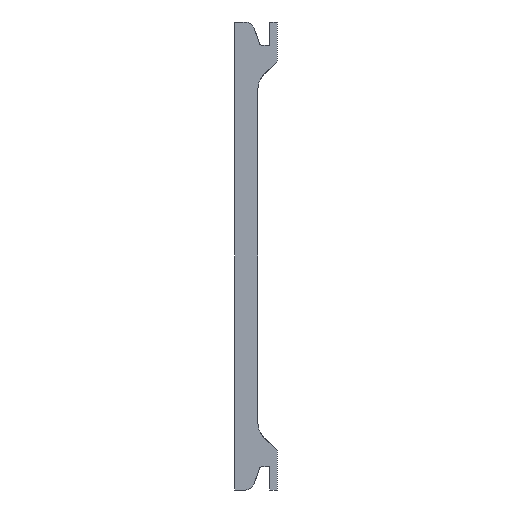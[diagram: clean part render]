
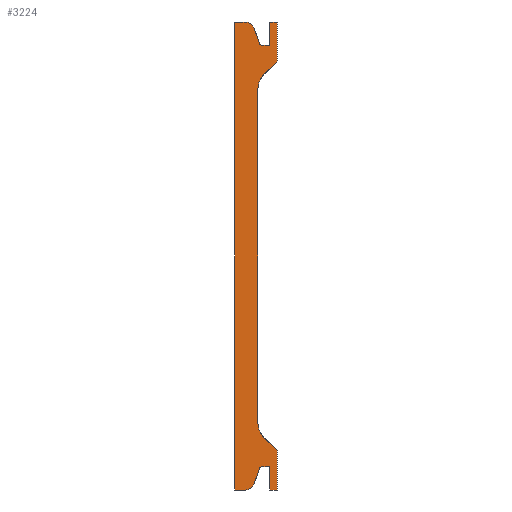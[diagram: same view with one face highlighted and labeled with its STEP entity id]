
A CAD part, left-side view. The second image highlights one B-rep face of the part: STEP entity #3224.
In plain terms, the highlighted planar face has unit normal (-1, 0, 0).
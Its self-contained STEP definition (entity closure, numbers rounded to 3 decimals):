
#133=PLANE('',#3458);
#290=FACE_OUTER_BOUND('',#460,.T.);
#460=EDGE_LOOP('',(#2743,#2744,#2745,#2746,#2747,#2748,#2749,#2750,#2751,
#2752,#2753,#2754,#2755,#2756,#2757,#2758,#2759,#2760,#2761,#2762,#2763,
#2764));
#524=LINE('',#4453,#910);
#636=LINE('',#4729,#1022);
#640=LINE('',#4741,#1026);
#663=LINE('',#4877,#1049);
#666=LINE('',#4886,#1052);
#674=LINE('',#4898,#1060);
#679=LINE('',#4906,#1065);
#684=LINE('',#4926,#1070);
#687=LINE('',#4958,#1073);
#833=LINE('',#5316,#1219);
#836=LINE('',#5322,#1222);
#838=LINE('',#5331,#1224);
#839=LINE('',#5335,#1225);
#840=LINE('',#5337,#1226);
#841=LINE('',#5339,#1227);
#842=LINE('',#5340,#1228);
#910=VECTOR('',#3562,10.);
#1022=VECTOR('',#3748,10.);
#1026=VECTOR('',#3760,10.);
#1049=VECTOR('',#3845,10.);
#1052=VECTOR('',#3852,10.);
#1060=VECTOR('',#3866,10.);
#1065=VECTOR('',#3877,10.);
#1070=VECTOR('',#3890,10.);
#1073=VECTOR('',#3899,10.);
#1219=VECTOR('',#4173,10.);
#1222=VECTOR('',#4178,10.);
#1224=VECTOR('',#4188,10.);
#1225=VECTOR('',#4191,10.);
#1226=VECTOR('',#4192,10.);
#1227=VECTOR('',#4193,10.);
#1228=VECTOR('',#4194,10.);
#1310=CIRCLE('',#3293,5.);
#1313=CIRCLE('',#3341,2.5);
#1322=CIRCLE('',#3360,1.);
#1332=CIRCLE('',#3385,5.);
#1341=CIRCLE('',#3456,2.5);
#1343=CIRCLE('',#3459,1.);
#1356=VERTEX_POINT('',#4393);
#1357=VERTEX_POINT('',#4395);
#1374=VERTEX_POINT('',#4451);
#1458=VERTEX_POINT('',#4726);
#1459=VERTEX_POINT('',#4728);
#1461=VERTEX_POINT('',#4734);
#1463=VERTEX_POINT('',#4740);
#1480=VERTEX_POINT('',#4789);
#1497=VERTEX_POINT('',#4876);
#1499=VERTEX_POINT('',#4882);
#1501=VERTEX_POINT('',#4885);
#1505=VERTEX_POINT('',#4912);
#1506=VERTEX_POINT('',#4914);
#1513=VERTEX_POINT('',#4957);
#1619=VERTEX_POINT('',#5314);
#1621=VERTEX_POINT('',#5320);
#1622=VERTEX_POINT('',#5324);
#1624=VERTEX_POINT('',#5330);
#1625=VERTEX_POINT('',#5332);
#1626=VERTEX_POINT('',#5334);
#1627=VERTEX_POINT('',#5336);
#1628=VERTEX_POINT('',#5338);
#1656=EDGE_CURVE('',#1357,#1356,#1310,.T.);
#1676=EDGE_CURVE('',#1374,#1356,#524,.T.);
#1792=EDGE_CURVE('',#1458,#1459,#636,.T.);
#1795=EDGE_CURVE('',#1461,#1459,#1313,.T.);
#1798=EDGE_CURVE('',#1461,#1463,#640,.T.);
#1821=EDGE_CURVE('',#1480,#1463,#1322,.T.);
#1846=EDGE_CURVE('',#1480,#1497,#663,.T.);
#1850=EDGE_CURVE('',#1499,#1501,#666,.T.);
#1858=EDGE_CURVE('',#1501,#1374,#674,.T.);
#1863=EDGE_CURVE('',#1497,#1499,#679,.T.);
#1867=EDGE_CURVE('',#1505,#1506,#1332,.T.);
#1871=EDGE_CURVE('',#1357,#1505,#684,.T.);
#1877=EDGE_CURVE('',#1513,#1506,#687,.T.);
#2039=EDGE_CURVE('',#1619,#1458,#833,.T.);
#2042=EDGE_CURVE('',#1619,#1621,#836,.T.);
#2043=EDGE_CURVE('',#1622,#1621,#1341,.T.);
#2046=EDGE_CURVE('',#1622,#1624,#838,.T.);
#2047=EDGE_CURVE('',#1625,#1624,#1343,.T.);
#2048=EDGE_CURVE('',#1625,#1626,#839,.T.);
#2049=EDGE_CURVE('',#1626,#1627,#840,.T.);
#2050=EDGE_CURVE('',#1627,#1628,#841,.T.);
#2051=EDGE_CURVE('',#1628,#1513,#842,.T.);
#2743=ORIENTED_EDGE('',*,*,#2043,.F.);
#2744=ORIENTED_EDGE('',*,*,#2046,.T.);
#2745=ORIENTED_EDGE('',*,*,#2047,.F.);
#2746=ORIENTED_EDGE('',*,*,#2048,.T.);
#2747=ORIENTED_EDGE('',*,*,#2049,.T.);
#2748=ORIENTED_EDGE('',*,*,#2050,.T.);
#2749=ORIENTED_EDGE('',*,*,#2051,.T.);
#2750=ORIENTED_EDGE('',*,*,#1877,.T.);
#2751=ORIENTED_EDGE('',*,*,#1867,.F.);
#2752=ORIENTED_EDGE('',*,*,#1871,.F.);
#2753=ORIENTED_EDGE('',*,*,#1656,.T.);
#2754=ORIENTED_EDGE('',*,*,#1676,.F.);
#2755=ORIENTED_EDGE('',*,*,#1858,.F.);
#2756=ORIENTED_EDGE('',*,*,#1850,.F.);
#2757=ORIENTED_EDGE('',*,*,#1863,.F.);
#2758=ORIENTED_EDGE('',*,*,#1846,.F.);
#2759=ORIENTED_EDGE('',*,*,#1821,.T.);
#2760=ORIENTED_EDGE('',*,*,#1798,.F.);
#2761=ORIENTED_EDGE('',*,*,#1795,.T.);
#2762=ORIENTED_EDGE('',*,*,#1792,.F.);
#2763=ORIENTED_EDGE('',*,*,#2039,.F.);
#2764=ORIENTED_EDGE('',*,*,#2042,.T.);
#3224=ADVANCED_FACE('',(#290),#133,.T.);
#3293=AXIS2_PLACEMENT_3D('',#4396,#3532,#3533);
#3341=AXIS2_PLACEMENT_3D('',#4735,#3753,#3754);
#3360=AXIS2_PLACEMENT_3D('',#4790,#3804,#3805);
#3385=AXIS2_PLACEMENT_3D('',#4915,#3884,#3885);
#3456=AXIS2_PLACEMENT_3D('',#5325,#4181,#4182);
#3458=AXIS2_PLACEMENT_3D('',#5329,#4186,#4187);
#3459=AXIS2_PLACEMENT_3D('',#5333,#4189,#4190);
#3532=DIRECTION('center_axis',(1.,0.,0.));
#3533=DIRECTION('ref_axis',(0.,0.924,0.383));
#3562=DIRECTION('',(0.,0.707,-0.707));
#3748=DIRECTION('',(0.,-1.,0.));
#3753=DIRECTION('center_axis',(-1.,0.,0.));
#3754=DIRECTION('ref_axis',(0.,-0.585,0.811));
#3760=DIRECTION('',(0.,-0.316,-0.949));
#3804=DIRECTION('center_axis',(1.,0.,0.));
#3805=DIRECTION('ref_axis',(0.,0.585,-0.811));
#3845=DIRECTION('',(0.,-1.,0.));
#3852=DIRECTION('',(0.,-1.,0.));
#3866=DIRECTION('',(0.,0.,-1.));
#3877=DIRECTION('',(0.,0.,1.));
#3884=DIRECTION('center_axis',(-1.,0.,0.));
#3885=DIRECTION('ref_axis',(0.,0.924,-0.383));
#3890=DIRECTION('',(0.,0.,-1.));
#3899=DIRECTION('',(0.,0.707,0.707));
#4173=DIRECTION('',(0.,0.,1.));
#4178=DIRECTION('',(0.,-1.,0.));
#4181=DIRECTION('center_axis',(1.,0.,0.));
#4182=DIRECTION('ref_axis',(0.,-0.585,-0.811));
#4186=DIRECTION('center_axis',(-1.,0.,0.));
#4187=DIRECTION('ref_axis',(0.,0.,1.));
#4188=DIRECTION('',(0.,-0.316,0.949));
#4189=DIRECTION('center_axis',(-1.,0.,0.));
#4190=DIRECTION('ref_axis',(0.,0.585,0.811));
#4191=DIRECTION('',(0.,-1.,0.));
#4192=DIRECTION('',(0.,0.,-1.));
#4193=DIRECTION('',(0.,-1.,0.));
#4194=DIRECTION('',(0.,0.,1.));
#4393=CARTESIAN_POINT('',(39.83,3.536,46.464));
#4395=CARTESIAN_POINT('',(39.83,5.,42.929));
#4396=CARTESIAN_POINT('Origin',(39.83,0.,42.929));
#4451=CARTESIAN_POINT('',(39.83,0.,50.));
#4453=CARTESIAN_POINT('',(39.83,12.5,37.5));
#4726=CARTESIAN_POINT('',(39.83,11.,60.));
#4728=CARTESIAN_POINT('',(39.83,8.302,60.));
#4729=CARTESIAN_POINT('',(39.83,10.,60.));
#4734=CARTESIAN_POINT('',(39.83,5.93,58.291));
#4735=CARTESIAN_POINT('Origin',(39.83,8.302,57.5));
#4740=CARTESIAN_POINT('',(39.83,4.728,54.684));
#4741=CARTESIAN_POINT('',(39.83,-2.825,32.025));
#4789=CARTESIAN_POINT('',(39.83,3.779,54.));
#4790=CARTESIAN_POINT('Origin',(39.83,3.779,55.));
#4876=CARTESIAN_POINT('',(39.83,2.,54.));
#4877=CARTESIAN_POINT('',(39.83,2.25,54.));
#4882=CARTESIAN_POINT('',(39.83,2.,60.));
#4885=CARTESIAN_POINT('',(39.83,0.,60.));
#4886=CARTESIAN_POINT('',(39.83,10.,60.));
#4898=CARTESIAN_POINT('',(39.83,0.,0.));
#4906=CARTESIAN_POINT('',(39.83,2.,27.));
#4912=CARTESIAN_POINT('',(39.83,5.,-42.929));
#4914=CARTESIAN_POINT('',(39.83,3.536,-46.464));
#4915=CARTESIAN_POINT('Origin',(39.83,0.,-42.929));
#4926=CARTESIAN_POINT('',(39.83,5.,22.5));
#4957=CARTESIAN_POINT('',(39.83,0.,-50.));
#4958=CARTESIAN_POINT('',(39.83,12.5,-37.5));
#5314=CARTESIAN_POINT('',(39.83,11.,-60.));
#5316=CARTESIAN_POINT('',(39.83,11.,0.));
#5320=CARTESIAN_POINT('',(39.83,8.302,-60.));
#5322=CARTESIAN_POINT('',(39.83,10.,-60.));
#5324=CARTESIAN_POINT('',(39.83,5.93,-58.291));
#5325=CARTESIAN_POINT('Origin',(39.83,8.302,-57.5));
#5329=CARTESIAN_POINT('Origin',(39.83,0.,0.));
#5330=CARTESIAN_POINT('',(39.83,4.728,-54.684));
#5331=CARTESIAN_POINT('',(39.83,-2.825,-32.025));
#5332=CARTESIAN_POINT('',(39.83,3.779,-54.));
#5333=CARTESIAN_POINT('Origin',(39.83,3.779,-55.));
#5334=CARTESIAN_POINT('',(39.83,2.,-54.));
#5335=CARTESIAN_POINT('',(39.83,2.25,-54.));
#5336=CARTESIAN_POINT('',(39.83,2.,-60.));
#5337=CARTESIAN_POINT('',(39.83,2.,-27.));
#5338=CARTESIAN_POINT('',(39.83,0.,-60.));
#5339=CARTESIAN_POINT('',(39.83,10.,-60.));
#5340=CARTESIAN_POINT('',(39.83,0.,0.));
